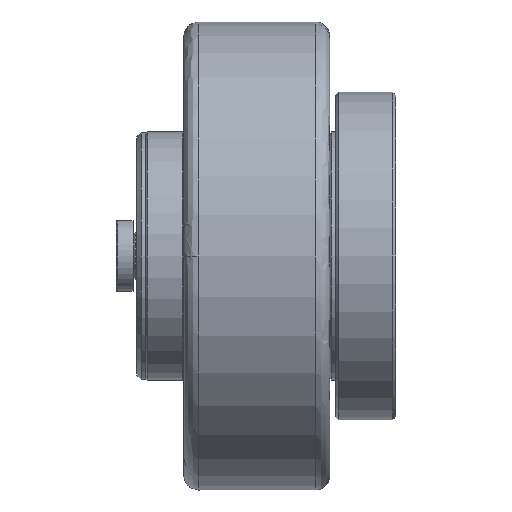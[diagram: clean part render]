
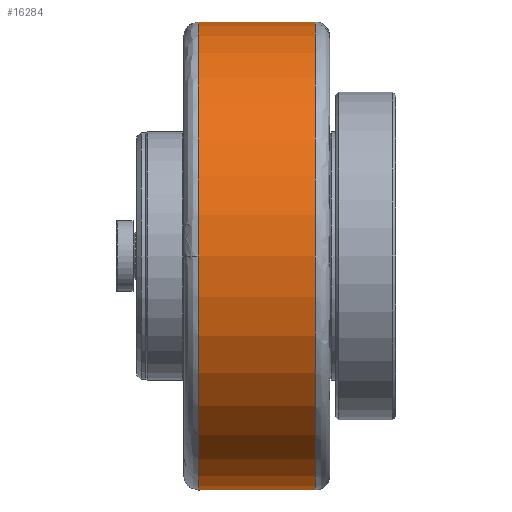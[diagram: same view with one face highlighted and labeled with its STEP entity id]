
A CAD part, front view. The second image highlights one B-rep face of the part: STEP entity #16284.
In plain terms, the highlighted cylindrical face has radius 80 mm (diameter 160 mm), a partial arc.
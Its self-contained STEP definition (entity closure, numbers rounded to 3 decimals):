
#167 = DIRECTION ( 'NONE',  ( 0., 0., 1. ) ) ;
#882 = ORIENTED_EDGE ( 'NONE', *, *, #19771, .T. ) ;
#4453 = CARTESIAN_POINT ( 'NONE',  ( -52., 0., -80. ) ) ;
#5355 = DIRECTION ( 'NONE',  ( 0., -1., 0. ) ) ;
#5649 = VERTEX_POINT ( 'NONE', #45155 ) ;
#7652 = CIRCLE ( 'NONE', #15788, 80. ) ;
#8033 = DIRECTION ( 'NONE',  ( 1., 0., 0. ) ) ;
#9407 = ORIENTED_EDGE ( 'NONE', *, *, #20470, .F. ) ;
#9676 = CARTESIAN_POINT ( 'NONE',  ( -52., 0., 0. ) ) ;
#10091 = ORIENTED_EDGE ( 'NONE', *, *, #28824, .F. ) ;
#11572 = CARTESIAN_POINT ( 'NONE',  ( -12., 0., 80. ) ) ;
#12916 = DIRECTION ( 'NONE',  ( 0., -1., 0. ) ) ;
#14393 = DIRECTION ( 'NONE',  ( -1., 0., 0. ) ) ;
#15788 = AXIS2_PLACEMENT_3D ( 'NONE', #9676, #24340, #12916 ) ;
#16018 = EDGE_CURVE ( 'NONE', #39375, #45720, #7652, .T. ) ;
#16284 = ADVANCED_FACE ( 'NONE', ( #37674 ), #27794, .T. ) ;
#16459 = CARTESIAN_POINT ( 'NONE',  ( -52., 0., 0. ) ) ;
#16906 = LINE ( 'NONE', #21063, #38852 ) ;
#18753 = CARTESIAN_POINT ( 'NONE',  ( -7., 0., -80. ) ) ;
#19193 = AXIS2_PLACEMENT_3D ( 'NONE', #36937, #44376, #167 ) ;
#19677 = ORIENTED_EDGE ( 'NONE', *, *, #44658, .F. ) ;
#19771 = EDGE_CURVE ( 'NONE', #46121, #5649, #16906, .T. ) ;
#20178 = CARTESIAN_POINT ( 'NONE',  ( -52., -80., 0. ) ) ;
#20470 = EDGE_CURVE ( 'NONE', #45720, #5649, #23784, .T. ) ;
#21063 = CARTESIAN_POINT ( 'NONE',  ( -7., 0., 80. ) ) ;
#21172 = CIRCLE ( 'NONE', #41101, 80. ) ;
#22778 = ORIENTED_EDGE ( 'NONE', *, *, #16018, .F. ) ;
#23784 = CIRCLE ( 'NONE', #33839, 80. ) ;
#24340 = DIRECTION ( 'NONE',  ( -1., 0., 0. ) ) ;
#27794 = CYLINDRICAL_SURFACE ( 'NONE', #19193, 80. ) ;
#28824 = EDGE_CURVE ( 'NONE', #46121, #42201, #21172, .T. ) ;
#31974 = DIRECTION ( 'NONE',  ( -1., 0., 0. ) ) ;
#32162 = LINE ( 'NONE', #18753, #35670 ) ;
#33825 = DIRECTION ( 'NONE',  ( 0., 0., -1. ) ) ;
#33839 = AXIS2_PLACEMENT_3D ( 'NONE', #16459, #41819, #5355 ) ;
#35670 = VECTOR ( 'NONE', #14393, 1000. ) ;
#36937 = CARTESIAN_POINT ( 'NONE',  ( -7., 0., 0. ) ) ;
#37674 = FACE_OUTER_BOUND ( 'NONE', #42460, .T. ) ;
#38852 = VECTOR ( 'NONE', #31974, 1000. ) ;
#39375 = VERTEX_POINT ( 'NONE', #4453 ) ;
#41101 = AXIS2_PLACEMENT_3D ( 'NONE', #45336, #8033, #33825 ) ;
#41819 = DIRECTION ( 'NONE',  ( -1., 0., 0. ) ) ;
#42201 = VERTEX_POINT ( 'NONE', #43866 ) ;
#42460 = EDGE_LOOP ( 'NONE', ( #19677, #10091, #882, #9407, #22778 ) ) ;
#43866 = CARTESIAN_POINT ( 'NONE',  ( -12., 0., -80. ) ) ;
#44376 = DIRECTION ( 'NONE',  ( -1., 0., 0. ) ) ;
#44658 = EDGE_CURVE ( 'NONE', #42201, #39375, #32162, .T. ) ;
#45155 = CARTESIAN_POINT ( 'NONE',  ( -52., 0., 80. ) ) ;
#45336 = CARTESIAN_POINT ( 'NONE',  ( -12., 0., 0. ) ) ;
#45720 = VERTEX_POINT ( 'NONE', #20178 ) ;
#46121 = VERTEX_POINT ( 'NONE', #11572 ) ;
